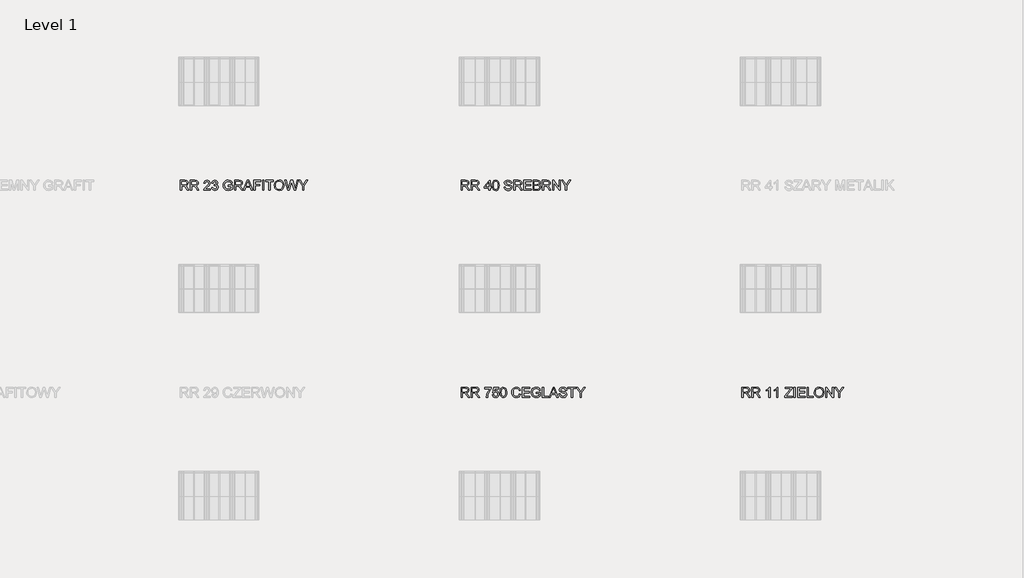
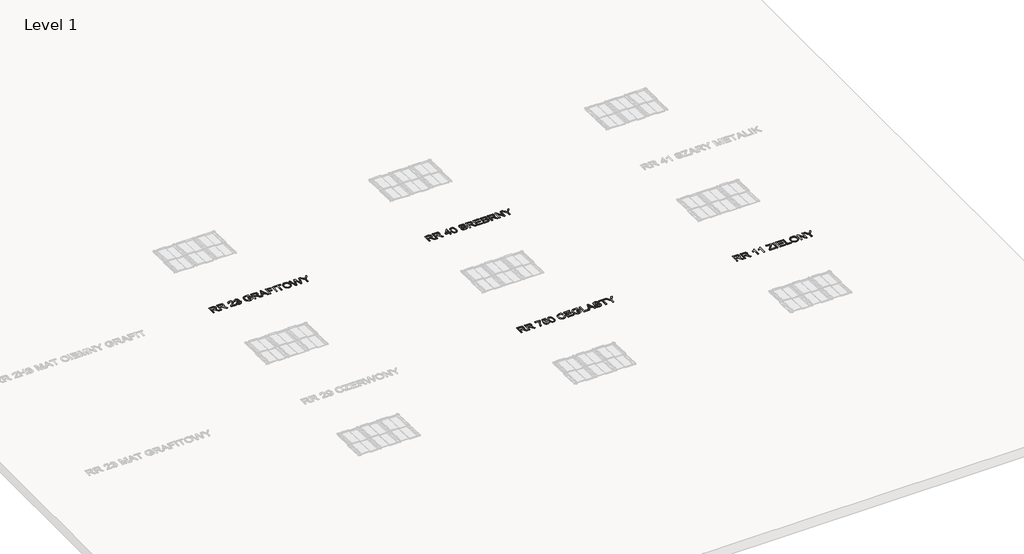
# One storey, part 5 of 9: 4 proxies.
"""IFC4 building model written with IfcOpenShell, lengths in millimetres."""

from ifc_helpers import new_model, si_unit, frame, origin, place, context, project, spatial, polyline, outline, extrude, element, save

model = new_model("IFC4")

# Units and contexts
model_context = context("Model", 3, world=origin())
ifc_project = project(units=[si_unit("LENGTHUNIT", "METRE", prefix="MILLI")], contexts=[model_context])

# Site, building, storey
site = spatial("IfcSite", under=ifc_project)
building = spatial("IfcBuilding", under=site)
storey = spatial("IfcBuildingStorey", under=building, Name="Level 1", Elevation=0.0)

# Proxies
placement = place(None, origin())
element("IfcBuildingElementProxy", 1, Name="150 Blue", ObjectType="150 Blue", at=placement, inside=storey, context=model_context, shape_type="SweptSolid", body=[
    extrude(outline(polyline([(-4536.4118342, -1635.6514112), (-4536.4118342, -1484.966946), (-4471.4806621, -1484.966946), (-4441.3327325, -1489.032042), (-4432.0529092, -1494.6606365), (-4424.8516192, -1503.416228), (-4420.2301016, -1514.2733454), (-4418.6895957, -1526.2065176), (-4421.2417771, -1541.0505561), (-4428.8983211, -1553.3562089), (-4441.8891541, -1562.3785148), (-4460.4442022, -1567.3725129), (-4449.7388361, -1575.4291286), (-4434.4717333, -1594.8165097), (-4409.3453931, -1635.6514112), (-4431.2343718, -1635.6514112), (-4450.8424821, -1604.4182298), (-4465.0059389, -1583.7432617), (-4474.9571469, -1573.9759947), (-4483.9150735, -1570.3891452), (-4494.8411687, -1569.7269577), (-4517.576276, -1569.7269577), (-4517.576276, -1635.6514112), (-4536.4118342, -1635.6514112)]), holes=[polyline([(-4517.576276, -1550.8913995), (-4475.4169994, -1550.8913995), (-4453.9142968, -1548.224255), (-4441.7006145, -1539.6893927), (-4437.5251539, -1526.9054934), (-4439.5163152, -1517.7176406), (-4445.4897991, -1510.3140154), (-4455.7675023, -1505.4303819), (-4470.6713217, -1503.8025041), (-4517.576276, -1503.8025041), (-4517.576276, -1550.8913995)])]), frame((0.0, 0.0, 600.0), z_axis=(0.0, 0.0, 1.0), x_axis=(1.0, 0.0, 0.0)), (0.0, 0.0, 1.0), 10.0),
    extrude(outline(polyline([(-4385.727369, -1635.6514112), (-4385.727369, -1484.966946), (-4320.7961968, -1484.966946), (-4290.6482673, -1489.032042), (-4281.368444, -1494.6606365), (-4274.1671539, -1503.416228), (-4269.5456364, -1514.2733454), (-4268.0051305, -1526.2065176), (-4270.5573119, -1541.0505561), (-4278.2138559, -1553.3562089), (-4291.2046888, -1562.3785148), (-4309.759737, -1567.3725129), (-4299.0543709, -1575.4291286), (-4283.7872681, -1594.8165097), (-4258.6609278, -1635.6514112), (-4280.5499066, -1635.6514112), (-4300.1580169, -1604.4182298), (-4314.3214737, -1583.7432617), (-4324.2726817, -1573.9759947), (-4333.2306083, -1570.3891452), (-4344.1567035, -1569.7269577), (-4366.8918108, -1569.7269577), (-4366.8918108, -1635.6514112), (-4385.727369, -1635.6514112)]), holes=[polyline([(-4366.8918108, -1550.8913995), (-4324.7325342, -1550.8913995), (-4303.2298316, -1548.224255), (-4291.0161493, -1539.6893927), (-4286.8406887, -1526.9054934), (-4288.83185, -1517.7176406), (-4294.8053339, -1510.3140154), (-4305.0830371, -1505.4303819), (-4319.9868564, -1503.8025041), (-4366.8918108, -1503.8025041), (-4366.8918108, -1550.8913995)])]), frame((0.0, 0.0, 600.0), z_axis=(0.0, 0.0, 1.0), x_axis=(1.0, 0.0, 0.0)), (0.0, 0.0, 1.0), 10.0),
    extrude(outline(polyline([(-4086.7128833, -1616.815853), (-4086.7128833, -1635.6514112), (-4185.5995636, -1635.6514112), (-4183.5762126, -1622.6651768), (-4172.1166885, -1602.6707903), (-4148.5170585, -1580.8369939), (-4116.0146842, -1549.4566597), (-4109.9308357, -1538.6409291), (-4107.9028862, -1528.119504), (-4109.8204711, -1518.6879293), (-4115.5732258, -1510.8474443), (-4124.4161893, -1505.5637392), (-4135.6044005, -1503.8025041), (-4147.3536317, -1505.5223524), (-4156.4817037, -1510.6818974), (-4162.3724141, -1518.8764689), (-4164.4095607, -1529.7013966), (-4183.2451188, -1527.3469518), (-4178.6787836, -1509.127596), (-4168.8057505, -1495.8194648), (-4154.1410545, -1487.6800757), (-4135.1997303, -1484.966946), (-4116.1204503, -1487.9835783), (-4101.4833454, -1497.0334754), (-4092.1713324, -1510.5531387), (-4089.0673281, -1526.9790698), (-4092.4150542, -1544.8397407), (-4103.5434846, -1563.3074168), (-4130.5276289, -1589.1143388), (-4152.1958784, -1607.2325271), (-4160.6939525, -1616.815853), (-4086.7128833, -1616.815853)])), frame((0.0, 0.0, 600.0), z_axis=(0.0, 0.0, 1.0), x_axis=(1.0, 0.0, 0.0)), (0.0, 0.0, 1.0), 10.0),
    extrude(outline(polyline([(-4067.8773251, -1595.6258501), (-4049.041767, -1593.2714053), (-4044.8249196, -1605.1080085), (-4038.6491006, -1613.1002449), (-4030.2108074, -1617.6527846), (-4019.2065372, -1619.1702978), (-4006.2938792, -1617.0825675), (-3996.3242771, -1610.8193765), (-3989.9507215, -1601.4751738), (-3987.826203, -1590.1444084), (-3989.9323274, -1579.3884586), (-3996.2507007, -1570.6650567), (-4005.8156326, -1564.8847109), (-4017.6614328, -1562.9579289), (-4030.8683964, -1565.0180681), (-4028.7714691, -1546.18251), (-4025.7548367, -1546.4032392), (-4004.3808928, -1540.9953738), (-3997.2623762, -1534.1343746), (-3994.8895373, -1524.3671076), (-3996.6093856, -1516.232317), (-4001.7689306, -1509.6334337), (-4009.6416053, -1505.2602365), (-4019.5008428, -1503.8025041), (-4029.3784744, -1505.2740321), (-4037.4534841, -1509.688616), (-4043.3487931, -1517.0462559), (-4046.6873222, -1527.3469518), (-4065.5228804, -1524.992507), (-4059.9770593, -1508.0791323), (-4050.1086248, -1495.4515828), (-4036.6073556, -1487.5881052), (-4020.1630304, -1484.966946), (-3997.4463172, -1490.135688), (-3981.553815, -1504.2623566), (-3976.0539791, -1523.2634617), (-3981.2779035, -1540.6274918), (-3996.7289473, -1553.0986915), (-3984.9383293, -1557.8627633), (-3976.2011319, -1565.9745613), (-3970.7932666, -1576.9926271), (-3968.9906448, -1590.4755022), (-3972.5958884, -1608.8328137), (-3983.4116191, -1624.1734929), (-3999.7363826, -1634.5477652), (-4019.8687248, -1638.005856), (-4038.0788835, -1635.0536029), (-4052.9045279, -1626.1968439), (-4063.2144209, -1612.6495894), (-4067.8773251, -1595.6258501)])), frame((0.0, 0.0, 600.0), z_axis=(0.0, 0.0, 1.0), x_axis=(1.0, 0.0, 0.0)), (0.0, 0.0, 1.0), 10.0),
    extrude(outline(polyline([(-3815.9517348, -1576.790292), (-3815.9517348, -1557.9547338), (-3754.7361709, -1557.9547338), (-3754.7361709, -1614.2774673), (-3784.9576768, -1632.0461676), (-3816.908228, -1638.005856), (-3838.0384501, -1635.6376156), (-3857.1361242, -1628.5328946), (-3873.0010353, -1616.9400132), (-3884.4329683, -1601.1072918), (-3891.3445512, -1582.1153838), (-3893.6484122, -1561.0449426), (-3891.3537483, -1539.82275), (-3884.4697564, -1520.0812824), (-3873.2815453, -1503.5219941), (-3858.0742233, -1491.8463393), (-3839.5513648, -1484.9209607), (-3818.4165442, -1482.6125012), (-3788.9491964, -1487.9651842), (-3777.1999652, -1494.3663309), (-3768.2926224, -1502.864405), (-3756.9066746, -1527.7884102), (-3774.2707048, -1532.6812407), (-3782.8607494, -1515.2620283), (-3797.539241, -1505.2188498), (-3818.7108498, -1501.4480593), (-3842.8255146, -1505.5131554), (-3859.2330516, -1516.1817333), (-3868.9267422, -1530.694678), (-3874.8128541, -1560.2723904), (-3873.042422, -1578.2848126), (-3867.7311257, -1593.1058584), (-3859.0399135, -1604.6297619), (-3847.1297339, -1612.750757), (-3833.1916048, -1617.5654126), (-3818.4165442, -1619.1702978), (-3792.6464105, -1614.3326496), (-3773.571729, -1604.0135596), (-3773.571729, -1576.790292), (-3815.9517348, -1576.790292)])), frame((0.0, 0.0, 600.0), z_axis=(0.0, 0.0, 1.0), x_axis=(1.0, 0.0, 0.0)), (0.0, 0.0, 1.0), 10.0),
    extrude(outline(polyline([(-3724.1283889, -1635.6514112), (-3724.1283889, -1484.966946), (-3659.1972167, -1484.966946), (-3629.0492872, -1489.032042), (-3619.7694639, -1494.6606365), (-3612.5681738, -1503.416228), (-3607.9466563, -1514.2733454), (-3606.4061504, -1526.2065176), (-3608.9583317, -1541.0505561), (-3616.6148758, -1553.3562089), (-3629.6057087, -1562.3785148), (-3648.1607568, -1567.3725129), (-3637.4553908, -1575.4291286), (-3622.188288, -1594.8165097), (-3597.0619477, -1635.6514112), (-3618.9509264, -1635.6514112), (-3638.5590368, -1604.4182298), (-3652.7224936, -1583.7432617), (-3662.6737016, -1573.9759947), (-3671.6316281, -1570.3891452), (-3682.5577234, -1569.7269577), (-3705.2928307, -1569.7269577), (-3705.2928307, -1635.6514112), (-3724.1283889, -1635.6514112)]), holes=[polyline([(-3705.2928307, -1550.8913995), (-3663.1335541, -1550.8913995), (-3641.6308514, -1548.224255), (-3629.4171692, -1539.6893927), (-3625.2417085, -1526.9054934), (-3627.2328698, -1517.7176406), (-3633.2063537, -1510.3140154), (-3643.484057, -1505.4303819), (-3658.3878763, -1503.8025041), (-3705.2928307, -1503.8025041), (-3705.2928307, -1550.8913995)])]), frame((0.0, 0.0, 600.0), z_axis=(0.0, 0.0, 1.0), x_axis=(1.0, 0.0, 0.0)), (0.0, 0.0, 1.0), 10.0),
    extrude(outline(polyline([(-3590.9551066, -1635.6514112), (-3530.8064004, -1484.966946), (-3514.7667454, -1484.966946), (-3454.6548274, -1635.6514112), (-3474.5572433, -1635.6514112), (-3491.7741207, -1588.5625158), (-3553.8726015, -1588.5625158), (-3571.0894789, -1635.6514112), (-3590.9551066, -1635.6514112)]), holes=[polyline([(-3546.95642, -1569.7269577), (-3498.653514, -1569.7269577), (-3512.2651478, -1532.6812407), (-3522.8233611, -1503.8025041), (-3532.204352, -1529.4438792), (-3546.95642, -1569.7269577)])]), frame((0.0, 0.0, 600.0), z_axis=(0.0, 0.0, 1.0), x_axis=(1.0, 0.0, 0.0)), (0.0, 0.0, 1.0), 10.0),
    extrude(outline(polyline([(-3434.5316822, -1635.6514112), (-3434.5316822, -1484.966946), (-3333.2905572, -1484.966946), (-3333.2905572, -1503.8025041), (-3415.6961241, -1503.8025041), (-3415.6961241, -1548.5369547), (-3345.062781, -1548.5369547), (-3345.062781, -1567.3725129), (-3415.6961241, -1567.3725129), (-3415.6961241, -1635.6514112), (-3434.5316822, -1635.6514112)])), frame((0.0, 0.0, 600.0), z_axis=(0.0, 0.0, 1.0), x_axis=(1.0, 0.0, 0.0)), (0.0, 0.0, 1.0), 10.0),
    extrude(outline(polyline([(-3305.0372199, -1635.6514112), (-3305.0372199, -1484.966946), (-3286.2016618, -1484.966946), (-3286.2016618, -1635.6514112), (-3305.0372199, -1635.6514112)])), frame((0.0, 0.0, 600.0), z_axis=(0.0, 0.0, 1.0), x_axis=(1.0, 0.0, 0.0)), (0.0, 0.0, 1.0), 10.0),
    extrude(outline(polyline([(-3210.8594292, -1635.6514112), (-3210.8594292, -1503.8025041), (-3260.3027693, -1503.8025041), (-3260.3027693, -1484.966946), (-3142.5805309, -1484.966946), (-3142.5805309, -1503.8025041), (-3192.023871, -1503.8025041), (-3192.023871, -1635.6514112), (-3210.8594292, -1635.6514112)])), frame((0.0, 0.0, 600.0), z_axis=(0.0, 0.0, 1.0), x_axis=(1.0, 0.0, 0.0)), (0.0, 0.0, 1.0), 10.0),
    extrude(outline(polyline([(-3128.4538623, -1562.2957413), (-3123.432273, -1528.9748296), (-3117.1552865, -1515.356298), (-3108.3675053, -1503.7657159), (-3085.3656836, -1487.9008049), (-3056.5329322, -1482.6125012), (-3036.768472, -1485.0957047), (-3019.0457569, -1492.5453151), (-3004.3304771, -1504.4371006), (-2993.5883228, -1520.2468293), (-2987.0216292, -1539.2111462), (-2984.8327313, -1560.566696), (-2987.1365923, -1582.2073543), (-2994.0481753, -1601.4383856), (-3005.1858027, -1617.2757055), (-3020.167797, -1628.7352297), (-3037.7387608, -1635.6881994), (-3056.6432968, -1638.005856), (-3076.7112596, -1635.4444776), (-3094.5351423, -1627.7603424), (-3109.2136339, -1615.6478277), (-3119.8454236, -1599.8013108), (-3126.3017526, -1581.5681594), (-3128.4538623, -1562.2957413)]), holes=[polyline([(-3109.6183041, -1562.4796823), (-3105.8521122, -1586.0517212), (-3094.5535364, -1604.0135596), (-3077.5711838, -1615.3811133), (-3056.7536614, -1619.1702978), (-3035.6326364, -1615.3443251), (-3018.6226926, -1603.8664068), (-3007.4068903, -1585.3527454), (-3003.6682895, -1560.4195432), (-3005.2685762, -1543.7452917), (-3010.0694362, -1529.3335146), (-3017.9467094, -1517.5474952), (-3028.7762357, -1508.750517), (-3041.840645, -1503.2736737), (-3056.4225676, -1501.4480593), (-3076.6836685, -1504.9659309), (-3093.9097429, -1515.5195457), (-3105.6911638, -1534.295323), (-3109.6183041, -1562.4796823)])]), frame((0.0, 0.0, 600.0), z_axis=(0.0, 0.0, 1.0), x_axis=(1.0, 0.0, 0.0)), (0.0, 0.0, 1.0), 10.0),
    extrude(outline(polyline([(-2931.9680886, -1635.6514112), (-2973.0605075, -1484.966946), (-2953.6363382, -1484.966946), (-2929.7975849, -1584.0007791), (-2922.439945, -1614.5717729), (-2914.5672703, -1587.5324462), (-2884.6952523, -1484.966946), (-2856.6994324, -1484.966946), (-2834.9943947, -1559.3158972), (-2818.8443751, -1614.5717729), (-2811.7074644, -1584.8836959), (-2787.6847701, -1484.966946), (-2768.2238126, -1484.966946), (-2809.2794432, -1635.6514112), (-2829.4393766, -1635.6514112), (-2865.6021767, -1519.4007007), (-2870.64216, -1503.1771047), (-2876.3075428, -1522.7116387), (-2909.2329813, -1635.6514112), (-2931.9680886, -1635.6514112)])), frame((0.0, 0.0, 600.0), z_axis=(0.0, 0.0, 1.0), x_axis=(1.0, 0.0, 0.0)), (0.0, 0.0, 1.0), 10.0),
    extrude(outline(polyline([(-2707.0082486, -1635.6514112), (-2707.0082486, -1571.823885), (-2765.8693678, -1484.966946), (-2743.6860835, -1484.966946), (-2712.2689611, -1531.3568656), (-2696.1925179, -1555.048466), (-2680.0424983, -1529.6646084), (-2651.5316437, -1484.966946), (-2629.3115712, -1484.966946), (-2688.1726904, -1571.823885), (-2688.1726904, -1635.6514112), (-2707.0082486, -1635.6514112)])), frame((0.0, 0.0, 600.0), z_axis=(0.0, 0.0, 1.0), x_axis=(1.0, 0.0, 0.0)), (0.0, 0.0, 1.0), 10.0),
])
element("IfcBuildingElementProxy", 2, Name="150 Blue", ObjectType="150 Blue", at=placement, inside=storey, context=model_context, shape_type="SweptSolid", body=[
    extrude(outline(polyline([(-336.4118342, -1635.6514112), (-336.4118342, -1484.966946), (-271.4806621, -1484.966946), (-241.3327325, -1489.032042), (-232.0529092, -1494.6606365), (-224.8516192, -1503.416228), (-220.2301016, -1514.2733454), (-218.6895957, -1526.2065176), (-221.2417771, -1541.0505561), (-228.8983211, -1553.3562089), (-241.8891541, -1562.3785148), (-260.4442022, -1567.3725129), (-249.7388361, -1575.4291286), (-234.4717333, -1594.8165097), (-209.3453931, -1635.6514112), (-231.2343718, -1635.6514112), (-250.8424821, -1604.4182298), (-265.0059389, -1583.7432617), (-274.9571469, -1573.9759947), (-283.9150735, -1570.3891452), (-294.8411687, -1569.7269577), (-317.576276, -1569.7269577), (-317.576276, -1635.6514112), (-336.4118342, -1635.6514112)]), holes=[polyline([(-317.576276, -1550.8913995), (-275.4169994, -1550.8913995), (-253.9142968, -1548.224255), (-241.7006145, -1539.6893927), (-237.5251539, -1526.9054934), (-239.5163152, -1517.7176406), (-245.4897991, -1510.3140154), (-255.7675023, -1505.4303819), (-270.6713217, -1503.8025041), (-317.576276, -1503.8025041), (-317.576276, -1550.8913995)])]), frame((0.0, 0.0, 600.0), z_axis=(0.0, 0.0, 1.0), x_axis=(1.0, 0.0, 0.0)), (0.0, 0.0, 1.0), 10.0),
    extrude(outline(polyline([(-185.727369, -1635.6514112), (-185.727369, -1484.966946), (-120.7961968, -1484.966946), (-90.6482673, -1489.032042), (-81.368444, -1494.6606365), (-74.1671539, -1503.416228), (-69.5456364, -1514.2733454), (-68.0051305, -1526.2065176), (-70.5573119, -1541.0505561), (-78.2138559, -1553.3562089), (-91.2046888, -1562.3785148), (-109.759737, -1567.3725129), (-99.0543709, -1575.4291286), (-83.7872681, -1594.8165097), (-58.6609278, -1635.6514112), (-80.5499066, -1635.6514112), (-100.1580169, -1604.4182298), (-114.3214737, -1583.7432617), (-124.2726817, -1573.9759947), (-133.2306083, -1570.3891452), (-144.1567035, -1569.7269577), (-166.8918108, -1569.7269577), (-166.8918108, -1635.6514112), (-185.727369, -1635.6514112)]), holes=[polyline([(-166.8918108, -1550.8913995), (-124.7325342, -1550.8913995), (-103.2298316, -1548.224255), (-91.0161493, -1539.6893927), (-86.8406887, -1526.9054934), (-88.83185, -1517.7176406), (-94.8053339, -1510.3140154), (-105.0830371, -1505.4303819), (-119.9868564, -1503.8025041), (-166.8918108, -1503.8025041), (-166.8918108, -1550.8913995)])]), frame((0.0, 0.0, 600.0), z_axis=(0.0, 0.0, 1.0), x_axis=(1.0, 0.0, 0.0)), (0.0, 0.0, 1.0), 10.0),
    extrude(outline(polyline([(77.9704452, -1635.6514112), (77.9704452, -1600.3347397), (9.6915469, -1600.3347397), (9.6915469, -1581.4991815), (82.6793347, -1487.3213907), (96.8060033, -1487.3213907), (96.8060033, -1581.4991815), (115.6415615, -1581.4991815), (115.6415615, -1600.3347397), (96.8060033, -1600.3347397), (96.8060033, -1635.6514112), (77.9704452, -1635.6514112)]), holes=[polyline([(77.9704452, -1581.4991815), (77.9704452, -1523.3002499), (32.8681126, -1581.4991815), (77.9704452, -1581.4991815)])]), frame((0.0, 0.0, 600.0), z_axis=(0.0, 0.0, 1.0), x_axis=(1.0, 0.0, 0.0)), (0.0, 0.0, 1.0), 10.0),
    extrude(outline(polyline([(132.1226749, -1561.5231892), (133.5068309, -1537.4039259), (137.6592989, -1518.168296), (144.5386922, -1503.5219941), (154.1036241, -1493.1707145), (166.4230724, -1487.0178881), (181.566015, -1484.966946), (203.5653583, -1489.8229883), (218.7588847, -1503.8208982), (227.5880526, -1526.1145471), (231.0093552, -1561.5231892), (229.6389947, -1585.5044967), (225.5279134, -1604.6941413), (218.6899068, -1619.3542388), (209.1387705, -1629.7469052), (196.7917311, -1635.9411183), (181.566015, -1638.005856), (161.9946929, -1634.4190065), (147.1322603, -1623.6584581), (135.8750712, -1598.1734329), (132.1226749, -1561.5231892)]), holes=[polyline([(150.958233, -1561.486401), (153.165525, -1591.1146971), (159.7874009, -1608.2625966), (169.6466384, -1616.4433725), (181.566015, -1619.1702978), (193.4853917, -1616.4341755), (203.3446291, -1608.2258084), (209.966505, -1591.0687119), (212.173797, -1561.486401), (210.0400814, -1532.5248909), (203.6389347, -1515.2436342), (193.7980913, -1506.6627866), (181.3452858, -1503.8025041), (169.5546679, -1506.3224958), (160.0817065, -1513.8824708), (153.2391014, -1532.2397823), (150.958233, -1561.486401)])]), frame((0.0, 0.0, 600.0), z_axis=(0.0, 0.0, 1.0), x_axis=(1.0, 0.0, 0.0)), (0.0, 0.0, 1.0), 10.0),
    extrude(outline(polyline([(306.3515878, -1583.8536263), (325.1871459, -1583.8536263), (331.2571988, -1602.7075785), (346.0828432, -1614.6269552), (368.6707978, -1619.1702978), (388.3524845, -1615.7306011), (401.0628074, -1606.2760339), (405.2382681, -1593.6392873), (402.1112711, -1581.8854576), (389.3089777, -1573.3322012), (361.8833749, -1566.1401082), (332.3608448, -1556.8510878), (316.3395839, -1542.8347838), (311.0604773, -1524.1095903), (312.6929537, -1513.0777289), (317.5903827, -1502.7908286), (325.6240058, -1494.0720253), (336.6650642, -1487.744455), (364.5873076, -1482.6125012), (394.3857492, -1487.9835783), (405.8084852, -1494.6146513), (414.251377, -1503.7657159), (419.5948629, -1514.8665551), (421.7193815, -1527.3469518), (402.8838233, -1527.3469518), (399.4257326, -1516.1081569), (392.2152454, -1507.9963589), (380.9488593, -1503.0851342), (365.3230716, -1501.4480593), (349.3294019, -1503.0667401), (338.3573214, -1507.9227825), (332.0113569, -1515.0688902), (329.8960355, -1523.5577673), (331.3951546, -1530.7958455), (335.892512, -1536.6175781), (366.6474468, -1547.1390031), (399.9775555, -1556.5935704), (410.7151113, -1563.4269785), (418.2061084, -1571.8606732), (422.6068968, -1581.8026841), (424.0738262, -1593.1610407), (422.3861676, -1604.7723162), (417.3231916, -1615.6938129), (409.091832, -1625.0931979), (397.8990223, -1632.1381381), (384.4391398, -1636.5389265), (369.4065617, -1638.005856), (350.9526812, -1636.4239634), (335.7637533, -1631.6782856), (323.6650342, -1623.7504286), (314.4817799, -1612.6219983), (308.5864709, -1599.0655468), (306.3515878, -1583.8536263)])), frame((0.0, 0.0, 600.0), z_axis=(0.0, 0.0, 1.0), x_axis=(1.0, 0.0, 0.0)), (0.0, 0.0, 1.0), 10.0),
    extrude(outline(polyline([(452.3271635, -1635.6514112), (452.3271635, -1484.966946), (517.2583356, -1484.966946), (547.4062651, -1489.032042), (556.6860884, -1494.6606365), (563.8873785, -1503.416228), (568.5088961, -1514.2733454), (570.0494019, -1526.2065176), (567.4972206, -1541.0505561), (559.8406765, -1553.3562089), (546.8498436, -1562.3785148), (528.2947955, -1567.3725129), (539.0001615, -1575.4291286), (554.2672643, -1594.8165097), (579.3936046, -1635.6514112), (557.5046259, -1635.6514112), (537.8965155, -1604.4182298), (523.7330587, -1583.7432617), (513.7818508, -1573.9759947), (504.8239242, -1570.3891452), (493.8978289, -1569.7269577), (471.1627216, -1569.7269577), (471.1627216, -1635.6514112), (452.3271635, -1635.6514112)]), holes=[polyline([(471.1627216, -1550.8913995), (513.3219983, -1550.8913995), (534.8247009, -1548.224255), (547.0383831, -1539.6893927), (551.2138438, -1526.9054934), (549.2226825, -1517.7176406), (543.2491986, -1510.3140154), (532.9714953, -1505.4303819), (518.067676, -1503.8025041), (471.1627216, -1503.8025041), (471.1627216, -1550.8913995)])]), frame((0.0, 0.0, 600.0), z_axis=(0.0, 0.0, 1.0), x_axis=(1.0, 0.0, 0.0)), (0.0, 0.0, 1.0), 10.0),
    extrude(outline(polyline([(603.0116287, -1635.6514112), (603.0116287, -1484.966946), (711.3160881, -1484.966946), (711.3160881, -1503.8025041), (621.8471868, -1503.8025041), (621.8471868, -1548.5369547), (706.6071985, -1548.5369547), (706.6071985, -1567.3725129), (621.8471868, -1567.3725129), (621.8471868, -1616.815853), (713.6705328, -1616.815853), (713.6705328, -1635.6514112), (603.0116287, -1635.6514112)])), frame((0.0, 0.0, 600.0), z_axis=(0.0, 0.0, 1.0), x_axis=(1.0, 0.0, 0.0)), (0.0, 0.0, 1.0), 10.0),
    extrude(outline(polyline([(741.9238701, -1635.6514112), (741.9238701, -1484.966946), (799.4238259, -1484.966946), (827.5851926, -1489.399924), (837.048957, -1495.02392), (844.2134588, -1503.0299519), (850.2283294, -1522.3069685), (845.169952, -1539.9101219), (829.8844551, -1553.2458443), (840.5576315, -1558.8192565), (848.4441018, -1567.2989365), (853.3139397, -1578.1238642), (854.937219, -1590.7330196), (850.5042409, -1610.9849234), (839.5229634, -1625.4058976), (823.1338205, -1633.0578431), (798.9823675, -1635.6514112), (741.9238701, -1635.6514112)]), holes=[polyline([(760.7594282, -1546.18251), (795.1563948, -1546.18251), (815.2427517, -1544.5638292), (827.3276752, -1537.5924654), (831.3927713, -1525.3236008), (827.6035867, -1513.0363422), (816.7510679, -1505.7706728), (792.5444326, -1503.8025041), (760.7594282, -1503.8025041), (760.7594282, -1546.18251)]), polyline([(760.7594282, -1616.815853), (799.3870377, -1616.815853), (813.3665535, -1616.080089), (825.1939597, -1611.9782048), (833.0298462, -1603.6088894), (836.1016608, -1590.9169606), (832.4964173, -1576.2752572), (820.8161639, -1567.5380598), (797.5476277, -1565.0180681), (760.7594282, -1565.0180681), (760.7594282, -1616.815853)])]), frame((0.0, 0.0, 600.0), z_axis=(0.0, 0.0, 1.0), x_axis=(1.0, 0.0, 0.0)), (0.0, 0.0, 1.0), 10.0),
    extrude(outline(polyline([(880.8361114, -1635.6514112), (880.8361114, -1484.966946), (945.7672836, -1484.966946), (975.9152131, -1489.032042), (985.1950364, -1494.6606365), (992.3963265, -1503.416228), (997.017844, -1514.2733454), (998.5583499, -1526.2065176), (996.0061686, -1541.0505561), (988.3496245, -1553.3562089), (975.3587916, -1562.3785148), (956.8037434, -1567.3725129), (967.5091095, -1575.4291286), (982.7762123, -1594.8165097), (1007.9025526, -1635.6514112), (986.0135739, -1635.6514112), (966.4054635, -1604.4182298), (952.2420067, -1583.7432617), (942.2907987, -1573.9759947), (933.3328722, -1570.3891452), (922.4067769, -1569.7269577), (899.6716696, -1569.7269577), (899.6716696, -1635.6514112), (880.8361114, -1635.6514112)]), holes=[polyline([(899.6716696, -1550.8913995), (941.8309462, -1550.8913995), (963.3336489, -1548.224255), (975.5473311, -1539.6893927), (979.7227917, -1526.9054934), (977.7316304, -1517.7176406), (971.7581465, -1510.3140154), (961.4804433, -1505.4303819), (946.576624, -1503.8025041), (899.6716696, -1503.8025041), (899.6716696, -1550.8913995)])]), frame((0.0, 0.0, 600.0), z_axis=(0.0, 0.0, 1.0), x_axis=(1.0, 0.0, 0.0)), (0.0, 0.0, 1.0), 10.0),
    extrude(outline(polyline([(1031.5205767, -1635.6514112), (1031.5205767, -1484.966946), (1051.68051, -1484.966946), (1130.407257, -1604.3446534), (1130.407257, -1484.966946), (1149.2428151, -1484.966946), (1149.2428151, -1635.6514112), (1129.0828818, -1635.6514112), (1050.3561348, -1516.2369156), (1050.3561348, -1635.6514112), (1031.5205767, -1635.6514112)])), frame((0.0, 0.0, 600.0), z_axis=(0.0, 0.0, 1.0), x_axis=(1.0, 0.0, 0.0)), (0.0, 0.0, 1.0), 10.0),
    extrude(outline(polyline([(1224.5850477, -1635.6514112), (1224.5850477, -1571.823885), (1165.7239285, -1484.966946), (1187.9072128, -1484.966946), (1219.3243352, -1531.3568656), (1235.4007784, -1555.048466), (1251.550798, -1529.6646084), (1280.0616526, -1484.966946), (1302.2817251, -1484.966946), (1243.4206059, -1571.823885), (1243.4206059, -1635.6514112), (1224.5850477, -1635.6514112)])), frame((0.0, 0.0, 600.0), z_axis=(0.0, 0.0, 1.0), x_axis=(1.0, 0.0, 0.0)), (0.0, 0.0, 1.0), 10.0),
])
element("IfcBuildingElementProxy", 3, Name="150 Blue", ObjectType="150 Blue", at=placement, inside=storey, context=model_context, shape_type="SweptSolid", body=[
    extrude(outline(polyline([(-336.4118342, -4735.6514112), (-336.4118342, -4584.966946), (-271.4806621, -4584.966946), (-241.3327325, -4589.032042), (-232.0529092, -4594.6606365), (-224.8516192, -4603.416228), (-220.2301016, -4614.2733454), (-218.6895957, -4626.2065176), (-221.2417771, -4641.0505561), (-228.8983211, -4653.3562089), (-241.8891541, -4662.3785148), (-260.4442022, -4667.3725129), (-249.7388361, -4675.4291286), (-234.4717333, -4694.8165097), (-209.3453931, -4735.6514112), (-231.2343718, -4735.6514112), (-250.8424821, -4704.4182298), (-265.0059389, -4683.7432617), (-274.9571469, -4673.9759947), (-283.9150735, -4670.3891452), (-294.8411687, -4669.7269577), (-317.576276, -4669.7269577), (-317.576276, -4735.6514112), (-336.4118342, -4735.6514112)]), holes=[polyline([(-317.576276, -4650.8913995), (-275.4169994, -4650.8913995), (-253.9142968, -4648.224255), (-241.7006145, -4639.6893927), (-237.5251539, -4626.9054934), (-239.5163152, -4617.7176406), (-245.4897991, -4610.3140154), (-255.7675023, -4605.4303819), (-270.6713217, -4603.8025041), (-317.576276, -4603.8025041), (-317.576276, -4650.8913995)])]), frame((0.0, 0.0, 600.0), z_axis=(0.0, 0.0, 1.0), x_axis=(1.0, 0.0, 0.0)), (0.0, 0.0, 1.0), 10.0),
    extrude(outline(polyline([(-185.727369, -4735.6514112), (-185.727369, -4584.966946), (-120.7961968, -4584.966946), (-90.6482673, -4589.032042), (-81.368444, -4594.6606365), (-74.1671539, -4603.416228), (-69.5456364, -4614.2733454), (-68.0051305, -4626.2065176), (-70.5573119, -4641.0505561), (-78.2138559, -4653.3562089), (-91.2046888, -4662.3785148), (-109.759737, -4667.3725129), (-99.0543709, -4675.4291286), (-83.7872681, -4694.8165097), (-58.6609278, -4735.6514112), (-80.5499066, -4735.6514112), (-100.1580169, -4704.4182298), (-114.3214737, -4683.7432617), (-124.2726817, -4673.9759947), (-133.2306083, -4670.3891452), (-144.1567035, -4669.7269577), (-166.8918108, -4669.7269577), (-166.8918108, -4735.6514112), (-185.727369, -4735.6514112)]), holes=[polyline([(-166.8918108, -4650.8913995), (-124.7325342, -4650.8913995), (-103.2298316, -4648.224255), (-91.0161493, -4639.6893927), (-86.8406887, -4626.9054934), (-88.83185, -4617.7176406), (-94.8053339, -4610.3140154), (-105.0830371, -4605.4303819), (-119.9868564, -4603.8025041), (-166.8918108, -4603.8025041), (-166.8918108, -4650.8913995)])]), frame((0.0, 0.0, 600.0), z_axis=(0.0, 0.0, 1.0), x_axis=(1.0, 0.0, 0.0)), (0.0, 0.0, 1.0), 10.0),
    extrude(outline(polyline([(16.7548812, -4606.1569489), (16.7548812, -4587.3213907), (115.6415615, -4587.3213907), (115.6415615, -4602.5517053), (87.5905593, -4643.0739071), (75.2803081, -4668.5359397), (66.1246449, -4694.7061451), (59.134887, -4735.6514112), (40.2993289, -4735.6514112), (47.7857275, -4693.1610407), (56.4999322, -4668.7014866), (68.3319369, -4645.1340463), (96.8060033, -4606.1569489), (16.7548812, -4606.1569489)])), frame((0.0, 0.0, 600.0), z_axis=(0.0, 0.0, 1.0), x_axis=(1.0, 0.0, 0.0)), (0.0, 0.0, 1.0), 10.0),
    extrude(outline(polyline([(132.1226749, -4695.6258501), (150.958233, -4693.2714053), (154.4163238, -4704.5791782), (160.4495885, -4712.6771806), (169.030436, -4717.5470185), (180.1312752, -4719.1702978), (193.6325444, -4716.9124221), (203.7492993, -4710.1387948), (210.0676726, -4699.6311653), (212.173797, -4686.1712828), (210.2010298, -4673.4977481), (204.2827282, -4663.8040575), (194.372907, -4657.6512312), (180.4255808, -4655.600289), (163.8892851, -4658.8744388), (153.3126778, -4667.3725129), (134.4771196, -4665.0180681), (150.958233, -4587.3213907), (223.9460209, -4587.3213907), (223.9460209, -4606.1569489), (166.1885476, -4606.1569489), (158.0951437, -4647.6540379), (171.5504277, -4639.4870576), (185.6495052, -4636.7647309), (203.2526586, -4640.1400482), (217.8759679, -4650.2660001), (227.7260084, -4665.6986498), (231.0093552, -4684.9940605), (228.0571021, -4703.8296186), (219.2003431, -4719.94285), (202.2409831, -4733.4901045), (180.0576988, -4738.005856), (161.557833, -4735.1041867), (146.8195606, -4726.399179), (136.7166013, -4712.9025083), (132.1226749, -4695.6258501)])), frame((0.0, 0.0, 600.0), z_axis=(0.0, 0.0, 1.0), x_axis=(1.0, 0.0, 0.0)), (0.0, 0.0, 1.0), 10.0),
    extrude(outline(polyline([(247.4904685, -4661.5231892), (248.8746245, -4637.4039259), (253.0270926, -4618.168296), (259.9064859, -4603.5219941), (269.4714178, -4593.1707145), (281.7908661, -4587.0178881), (296.9338087, -4584.966946), (318.933152, -4589.8229883), (334.1266784, -4603.8208982), (342.9558463, -4626.1145471), (346.3771488, -4661.5231892), (345.0067884, -4685.5044967), (340.8957071, -4704.6941413), (334.0577005, -4719.3542388), (324.5065642, -4729.7469052), (312.1595248, -4735.9411183), (296.9338087, -4738.005856), (277.3624866, -4734.4190065), (262.5000539, -4723.6584581), (251.2428649, -4698.1734329), (247.4904685, -4661.5231892)]), holes=[polyline([(266.3260267, -4661.486401), (268.5333187, -4691.1146971), (275.1551946, -4708.2625966), (285.0144321, -4716.4433725), (296.9338087, -4719.1702978), (308.8531853, -4716.4341755), (318.7124228, -4708.2258084), (325.3342987, -4691.0687119), (327.5415907, -4661.486401), (325.4078751, -4632.5248909), (319.0067284, -4615.2436342), (309.165885, -4606.6627866), (296.7130795, -4603.8025041), (284.9224616, -4606.3224958), (275.4495002, -4613.8824708), (268.6068951, -4632.2397823), (266.3260267, -4661.486401)])]), frame((0.0, 0.0, 600.0), z_axis=(0.0, 0.0, 1.0), x_axis=(1.0, 0.0, 0.0)), (0.0, 0.0, 1.0), 10.0),
    extrude(outline(polyline([(534.7327304, -4682.0877927), (553.5682885, -4686.943835), (544.8770764, -4708.8925946), (531.2378514, -4724.927651), (513.3219983, -4734.7363047), (491.8009015, -4738.005856), (469.9533096, -4735.5318495), (452.603075, -4728.1098303), (439.3041408, -4715.9973156), (429.6104503, -4699.4518229), (423.6921487, -4680.0000624), (421.7193815, -4659.1687444), (423.9496661, -4637.1969922), (430.6405198, -4618.2234783), (441.4424549, -4602.8506095), (456.0059834, -4591.6807924), (473.2780431, -4584.879574), (492.2055717, -4582.6125012), (512.8575472, -4585.5463601), (529.9318703, -4594.3479368), (542.8951121, -4608.4746055), (551.2138438, -4627.38374), (532.3782856, -4631.8719003), (525.8483802, -4618.1361064), (516.9272418, -4608.7137288), (505.5045059, -4603.2644767), (491.4698077, -4601.4480593), (475.292197, -4603.4622133), (462.0024599, -4609.504675), (451.9178947, -4618.9408482), (445.3557996, -4631.1361364), (440.5549396, -4659.1319562), (441.9758838, -4676.5327746), (446.2387164, -4691.5791482), (453.5043858, -4703.6962614), (463.9338404, -4712.3092986), (476.4372297, -4717.455048), (489.9247034, -4719.1702978), (505.6470601, -4716.8342471), (518.7482577, -4709.8260951), (528.6396848, -4698.2194182), (534.7327304, -4682.0877927)])), frame((0.0, 0.0, 600.0), z_axis=(0.0, 0.0, 1.0), x_axis=(1.0, 0.0, 0.0)), (0.0, 0.0, 1.0), 10.0),
    extrude(outline(polyline([(579.467181, -4735.6514112), (579.467181, -4584.966946), (687.7716404, -4584.966946), (687.7716404, -4603.8025041), (598.3027391, -4603.8025041), (598.3027391, -4648.5369547), (683.0627508, -4648.5369547), (683.0627508, -4667.3725129), (598.3027391, -4667.3725129), (598.3027391, -4716.815853), (690.1260851, -4716.815853), (690.1260851, -4735.6514112), (579.467181, -4735.6514112)])), frame((0.0, 0.0, 600.0), z_axis=(0.0, 0.0, 1.0), x_axis=(1.0, 0.0, 0.0)), (0.0, 0.0, 1.0), 10.0),
    extrude(outline(polyline([(789.0127654, -4676.790292), (789.0127654, -4657.9547338), (850.2283294, -4657.9547338), (850.2283294, -4714.2774673), (820.0068235, -4732.0461676), (788.0562723, -4738.005856), (766.9260502, -4735.6376156), (747.8283761, -4728.5328946), (731.963465, -4716.9400132), (720.531532, -4701.1072918), (713.6199491, -4682.1153838), (711.3160881, -4661.0449426), (713.610752, -4639.82275), (720.4947438, -4620.0812824), (731.682955, -4603.5219941), (746.890277, -4591.8463393), (765.4131355, -4584.9209607), (786.5479561, -4582.6125012), (816.0153039, -4587.9651842), (827.7645351, -4594.3663309), (836.6718779, -4602.864405), (848.0578257, -4627.7884102), (830.6937955, -4632.6812407), (822.1037509, -4615.2620283), (807.4252593, -4605.2188498), (786.2536505, -4601.4480593), (762.1389857, -4605.5131554), (745.7314487, -4616.1817333), (736.0377581, -4630.694678), (730.1516462, -4660.2723904), (731.9220783, -4678.2848126), (737.2333746, -4693.1058584), (745.9245868, -4704.6297619), (757.8347664, -4712.750757), (771.7728954, -4717.5654126), (786.5479561, -4719.1702978), (812.3180898, -4714.3326496), (831.3927713, -4704.0135596), (831.3927713, -4676.790292), (789.0127654, -4676.790292)])), frame((0.0, 0.0, 600.0), z_axis=(0.0, 0.0, 1.0), x_axis=(1.0, 0.0, 0.0)), (0.0, 0.0, 1.0), 10.0),
    extrude(outline(polyline([(880.8361114, -4735.6514112), (880.8361114, -4584.966946), (899.6716696, -4584.966946), (899.6716696, -4716.815853), (975.0139022, -4716.815853), (975.0139022, -4735.6514112), (880.8361114, -4735.6514112)])), frame((0.0, 0.0, 600.0), z_axis=(0.0, 0.0, 1.0), x_axis=(1.0, 0.0, 0.0)), (0.0, 0.0, 1.0), 10.0),
    extrude(outline(polyline([(978.6927222, -4735.6514112), (1038.8414284, -4584.966946), (1054.8810834, -4584.966946), (1114.9930014, -4735.6514112), (1095.0905854, -4735.6514112), (1077.8737081, -4688.5625158), (1015.7752273, -4688.5625158), (998.5583499, -4735.6514112), (978.6927222, -4735.6514112)]), holes=[polyline([(1022.6914088, -4669.7269577), (1070.9943147, -4669.7269577), (1057.3826809, -4632.6812407), (1046.8244677, -4603.8025041), (1037.4434768, -4629.4438792), (1022.6914088, -4669.7269577)])]), frame((0.0, 0.0, 600.0), z_axis=(0.0, 0.0, 1.0), x_axis=(1.0, 0.0, 0.0)), (0.0, 0.0, 1.0), 10.0),
    extrude(outline(polyline([(1128.0528122, -4683.8536263), (1146.8883704, -4683.8536263), (1152.9584233, -4702.7075785), (1167.7840677, -4714.6269552), (1190.3720222, -4719.1702978), (1210.0537089, -4715.7306011), (1222.7640319, -4706.2760339), (1226.9394925, -4693.6392873), (1223.8124955, -4681.8854576), (1211.0102021, -4673.3322012), (1183.5845994, -4666.1401082), (1154.0620693, -4656.8510878), (1138.0408084, -4642.8347838), (1132.7617017, -4624.1095903), (1134.3941781, -4613.0777289), (1139.2916071, -4602.7908286), (1147.3252302, -4594.0720253), (1158.3662886, -4587.744455), (1186.288532, -4582.6125012), (1216.0869736, -4587.9835783), (1227.5097096, -4594.6146513), (1235.9526014, -4603.7657159), (1241.2960874, -4614.8665551), (1243.4206059, -4627.3469518), (1224.5850477, -4627.3469518), (1221.126957, -4616.1081569), (1213.9164699, -4607.9963589), (1202.6500838, -4603.0851342), (1187.024296, -4601.4480593), (1171.0306263, -4603.0667401), (1160.0585458, -4607.9227825), (1153.7125814, -4615.0688902), (1151.5972599, -4623.5577673), (1153.096379, -4630.7958455), (1157.5937364, -4636.6175781), (1188.3486712, -4647.1390031), (1221.67878, -4656.5935704), (1232.4163357, -4663.4269785), (1239.9073328, -4671.8606732), (1244.3081212, -4681.8026841), (1245.7750507, -4693.1610407), (1244.087392, -4704.7723162), (1239.024416, -4715.6938129), (1230.7930564, -4725.0931979), (1219.6002467, -4732.1381381), (1206.1403642, -4736.5389265), (1191.1077862, -4738.005856), (1172.6539056, -4736.4239634), (1157.4649777, -4731.6782856), (1145.3662586, -4723.7504286), (1136.1830043, -4712.6219983), (1130.2876953, -4699.0655468), (1128.0528122, -4683.8536263)])), frame((0.0, 0.0, 600.0), z_axis=(0.0, 0.0, 1.0), x_axis=(1.0, 0.0, 0.0)), (0.0, 0.0, 1.0), 10.0),
    extrude(outline(polyline([(1311.6995042, -4735.6514112), (1311.6995042, -4603.8025041), (1262.256164, -4603.8025041), (1262.256164, -4584.966946), (1379.9784025, -4584.966946), (1379.9784025, -4603.8025041), (1330.5350623, -4603.8025041), (1330.5350623, -4735.6514112), (1311.6995042, -4735.6514112)])), frame((0.0, 0.0, 600.0), z_axis=(0.0, 0.0, 1.0), x_axis=(1.0, 0.0, 0.0)), (0.0, 0.0, 1.0), 10.0),
    extrude(outline(polyline([(1443.5484113, -4735.6514112), (1443.5484113, -4671.823885), (1384.687292, -4584.966946), (1406.8705763, -4584.966946), (1438.2876987, -4631.3568656), (1454.3641419, -4655.048466), (1470.5141615, -4629.6646084), (1499.0250161, -4584.966946), (1521.2450886, -4584.966946), (1462.3839694, -4671.823885), (1462.3839694, -4735.6514112), (1443.5484113, -4735.6514112)])), frame((0.0, 0.0, 600.0), z_axis=(0.0, 0.0, 1.0), x_axis=(1.0, 0.0, 0.0)), (0.0, 0.0, 1.0), 10.0),
])
element("IfcBuildingElementProxy", 4, Name="150 Blue", ObjectType="150 Blue", at=placement, inside=storey, context=model_context, shape_type="SweptSolid", body=[
    extrude(outline(polyline([(3863.5881658, -4735.6514112), (3863.5881658, -4584.966946), (3928.5193379, -4584.966946), (3958.6672675, -4589.032042), (3967.9470908, -4594.6606365), (3975.1483808, -4603.416228), (3979.7698984, -4614.2733454), (3981.3104043, -4626.2065176), (3978.7582229, -4641.0505561), (3971.1016789, -4653.3562089), (3958.1108459, -4662.3785148), (3939.5557978, -4667.3725129), (3950.2611639, -4675.4291286), (3965.5282667, -4694.8165097), (3990.6546069, -4735.6514112), (3968.7656282, -4735.6514112), (3949.1575179, -4704.4182298), (3934.9940611, -4683.7432617), (3925.0428531, -4673.9759947), (3916.0849265, -4670.3891452), (3905.1588313, -4669.7269577), (3882.423724, -4669.7269577), (3882.423724, -4735.6514112), (3863.5881658, -4735.6514112)]), holes=[polyline([(3882.423724, -4650.8913995), (3924.5830006, -4650.8913995), (3946.0857032, -4648.224255), (3958.2993855, -4639.6893927), (3962.4748461, -4626.9054934), (3960.4836848, -4617.7176406), (3954.5102009, -4610.3140154), (3944.2324977, -4605.4303819), (3929.3286783, -4603.8025041), (3882.423724, -4603.8025041), (3882.423724, -4650.8913995)])]), frame((0.0, 0.0, 600.0), z_axis=(0.0, 0.0, 1.0), x_axis=(1.0, 0.0, 0.0)), (0.0, 0.0, 1.0), 10.0),
    extrude(outline(polyline([(4014.272631, -4735.6514112), (4014.272631, -4584.966946), (4079.2038032, -4584.966946), (4109.3517327, -4589.032042), (4118.631556, -4594.6606365), (4125.8328461, -4603.416228), (4130.4543636, -4614.2733454), (4131.9948695, -4626.2065176), (4129.4426881, -4641.0505561), (4121.7861441, -4653.3562089), (4108.7953112, -4662.3785148), (4090.240263, -4667.3725129), (4100.9456291, -4675.4291286), (4116.2127319, -4694.8165097), (4141.3390722, -4735.6514112), (4119.4500934, -4735.6514112), (4099.8419831, -4704.4182298), (4085.6785263, -4683.7432617), (4075.7273183, -4673.9759947), (4066.7693917, -4670.3891452), (4055.8432965, -4669.7269577), (4033.1081892, -4669.7269577), (4033.1081892, -4735.6514112), (4014.272631, -4735.6514112)]), holes=[polyline([(4033.1081892, -4650.8913995), (4075.2674658, -4650.8913995), (4096.7701684, -4648.224255), (4108.9838507, -4639.6893927), (4113.1593113, -4626.9054934), (4111.16815, -4617.7176406), (4105.1946661, -4610.3140154), (4094.9169629, -4605.4303819), (4080.0131436, -4603.8025041), (4033.1081892, -4603.8025041), (4033.1081892, -4650.8913995)])]), frame((0.0, 0.0, 600.0), z_axis=(0.0, 0.0, 1.0), x_axis=(1.0, 0.0, 0.0)), (0.0, 0.0, 1.0), 10.0),
    extrude(outline(polyline([(4287.3882242, -4735.6514112), (4268.5526661, -4735.6514112), (4268.5526661, -4618.2234783), (4250.7103893, -4630.9338013), (4230.8815498, -4640.4435508), (4230.8815498, -4622.6380623), (4258.4910935, -4605.0165147), (4275.2481184, -4584.966946), (4287.3882242, -4584.966946), (4287.3882242, -4735.6514112)])), frame((0.0, 0.0, 600.0), z_axis=(0.0, 0.0, 1.0), x_axis=(1.0, 0.0, 0.0)), (0.0, 0.0, 1.0), 10.0),
    extrude(outline(polyline([(4402.7560179, -4735.6514112), (4383.9204598, -4735.6514112), (4383.9204598, -4618.2234783), (4366.078183, -4630.9338013), (4346.2493435, -4640.4435508), (4346.2493435, -4622.6380623), (4373.8588872, -4605.0165147), (4390.6159121, -4584.966946), (4402.7560179, -4584.966946), (4402.7560179, -4735.6514112)])), frame((0.0, 0.0, 600.0), z_axis=(0.0, 0.0, 1.0), x_axis=(1.0, 0.0, 0.0)), (0.0, 0.0, 1.0), 10.0),
    extrude(outline(polyline([(4501.6426982, -4735.6514112), (4501.6426982, -4716.1168772), (4578.677188, -4621.7183573), (4593.3188914, -4603.8025041), (4511.0604773, -4603.8025041), (4511.0604773, -4584.966946), (4617.0104919, -4584.966946), (4617.0104919, -4603.8025041), (4532.6919386, -4707.1037684), (4524.7456875, -4716.815853), (4619.3649367, -4716.815853), (4619.3649367, -4735.6514112), (4501.6426982, -4735.6514112)])), frame((0.0, 0.0, 600.0), z_axis=(0.0, 0.0, 1.0), x_axis=(1.0, 0.0, 0.0)), (0.0, 0.0, 1.0), 10.0),
    extrude(outline(polyline([(4642.9093844, -4735.6514112), (4642.9093844, -4584.966946), (4661.7449425, -4584.966946), (4661.7449425, -4735.6514112), (4642.9093844, -4735.6514112)])), frame((0.0, 0.0, 600.0), z_axis=(0.0, 0.0, 1.0), x_axis=(1.0, 0.0, 0.0)), (0.0, 0.0, 1.0), 10.0),
    extrude(outline(polyline([(4699.4160588, -4735.6514112), (4699.4160588, -4584.966946), (4807.7205182, -4584.966946), (4807.7205182, -4603.8025041), (4718.251617, -4603.8025041), (4718.251617, -4648.5369547), (4803.0116287, -4648.5369547), (4803.0116287, -4667.3725129), (4718.251617, -4667.3725129), (4718.251617, -4716.815853), (4810.074963, -4716.815853), (4810.074963, -4735.6514112), (4699.4160588, -4735.6514112)])), frame((0.0, 0.0, 600.0), z_axis=(0.0, 0.0, 1.0), x_axis=(1.0, 0.0, 0.0)), (0.0, 0.0, 1.0), 10.0),
    extrude(outline(polyline([(4838.3283002, -4735.6514112), (4838.3283002, -4584.966946), (4857.1638584, -4584.966946), (4857.1638584, -4716.815853), (4932.506091, -4716.815853), (4932.506091, -4735.6514112), (4838.3283002, -4735.6514112)])), frame((0.0, 0.0, 600.0), z_axis=(0.0, 0.0, 1.0), x_axis=(1.0, 0.0, 0.0)), (0.0, 0.0, 1.0), 10.0),
    extrude(outline(polyline([(4946.6327596, -4662.2957413), (4951.6543488, -4628.9748296), (4957.9313354, -4615.356298), (4966.7191165, -4603.7657159), (4989.7209383, -4587.9008049), (5018.5536897, -4582.6125012), (5038.3181498, -4585.0957047), (5056.040865, -4592.5453151), (5070.7561448, -4604.4371006), (5081.498299, -4620.2468293), (5088.0649926, -4639.2111462), (5090.2538905, -4660.566696), (5087.9500295, -4682.2073543), (5081.0384465, -4701.4383856), (5069.9008191, -4717.2757055), (5054.9188249, -4728.7352297), (5037.3478611, -4735.6881994), (5018.4433251, -4738.005856), (4998.3753622, -4735.4444776), (4980.5514796, -4727.7603424), (4965.8729879, -4715.6478277), (4955.2411983, -4699.8013108), (4948.7848693, -4681.5681594), (4946.6327596, -4662.2957413)]), holes=[polyline([(4965.4683178, -4662.4796823), (4969.2345097, -4686.0517212), (4980.5330855, -4704.0135596), (4997.5154381, -4715.3811133), (5018.3329605, -4719.1702978), (5039.4539855, -4715.3443251), (5056.4639293, -4703.8664068), (5067.6797316, -4685.3527454), (5071.4183324, -4660.4195432), (5069.8180457, -4643.7452917), (5065.0171856, -4629.3335146), (5057.1399124, -4617.5474952), (5046.3103862, -4608.750517), (5033.2459768, -4603.2736737), (5018.6640543, -4601.4480593), (4998.4029534, -4604.9659309), (4981.1768789, -4615.5195457), (4969.395458, -4634.295323), (4965.4683178, -4662.4796823)])]), frame((0.0, 0.0, 600.0), z_axis=(0.0, 0.0, 1.0), x_axis=(1.0, 0.0, 0.0)), (0.0, 0.0, 1.0), 10.0),
    extrude(outline(polyline([(5116.152783, -4735.6514112), (5116.152783, -4584.966946), (5136.3127163, -4584.966946), (5215.0394633, -4704.3446534), (5215.0394633, -4584.966946), (5233.8750214, -4584.966946), (5233.8750214, -4735.6514112), (5213.7150881, -4735.6514112), (5134.9883411, -4616.2369156), (5134.9883411, -4735.6514112), (5116.152783, -4735.6514112)])), frame((0.0, 0.0, 600.0), z_axis=(0.0, 0.0, 1.0), x_axis=(1.0, 0.0, 0.0)), (0.0, 0.0, 1.0), 10.0),
    extrude(outline(polyline([(5309.217254, -4735.6514112), (5309.217254, -4671.823885), (5250.3561348, -4584.966946), (5272.5394191, -4584.966946), (5303.9565415, -4631.3568656), (5320.0329847, -4655.048466), (5336.1830043, -4629.6646084), (5364.6938589, -4584.966946), (5386.9139314, -4584.966946), (5328.0528122, -4671.823885), (5328.0528122, -4735.6514112), (5309.217254, -4735.6514112)])), frame((0.0, 0.0, 600.0), z_axis=(0.0, 0.0, 1.0), x_axis=(1.0, 0.0, 0.0)), (0.0, 0.0, 1.0), 10.0),
])

save(model, "model.ifc")
